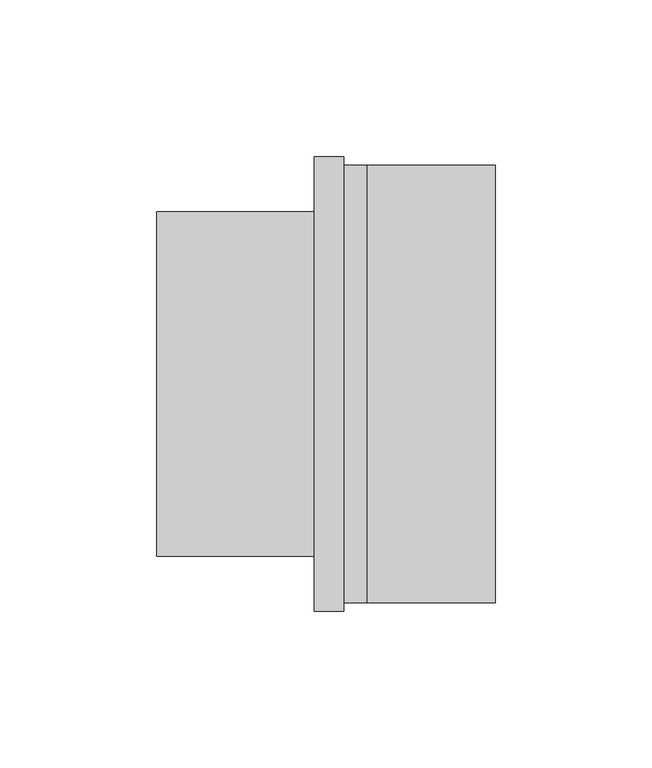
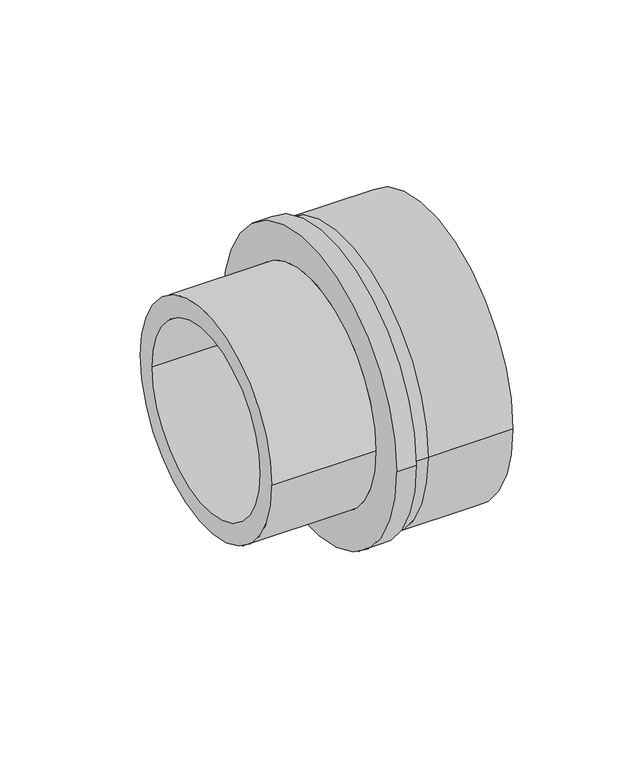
"""IFC4 building model written with IfcOpenShell, lengths in millimetres: pipe fitting geometry, Adapter with welding end : A welding RX."""

from ifc_helpers import new_model, si_unit, point, frame, origin, origin_2d, place, context, project, spatial, polyline, circle_curve, trimmed, segment, composite_curve, outline, extrude, source, transform, mapped, element, save
from ifc_brep_helpers import plane_surface, cylinder_surface, revolved_surface, advanced_brep


def pipe_fitting_dee27855(model_context):
    return source(origin(), model_context, "Body", "SolidModel", [
        advanced_brep(
        [(0.0, 69.8, 0.0), (0.0, -69.8, 0.0), (-7.3, -69.8, 0.0), (-7.3, 69.8, 0.0), (-7.3, 66.95, 0.0), (-7.3, -66.95, 0.0), (0.0, -66.95, 0.0), (0.0, 66.95, 0.0), (-67.0, 45.0, 0.0), (-67.0, -45.0, 0.0), (-7.3, -45.0, 0.0), (-7.3, 45.0, 0.0), (-16.7, 55.0, 0.0), (-16.7, -55.0, 0.0), (-67.0, -55.0, 0.0), (-67.0, 55.0, 0.0), (-7.3, 72.5, 0.0), (-7.3, -72.5, 0.0), (-16.7, -72.5, 0.0), (-16.7, 72.5, 0.0)],
        [
            (0, 1, circle_curve(frame((0.0, 0.0, 0.0), z_axis=(-1.0, 0.0, 0.0), x_axis=(0.0, -1.0, 0.0)), 69.8)),
            (1, 2),
            (2, 3, circle_curve(frame((-7.3, 0.0, 0.0), z_axis=(1.0, 0.0, 0.0), x_axis=(0.0, -1.0, 0.0)), 69.8)),
            (3, 0),
            (4, 5, circle_curve(frame((-7.3, 0.0, 0.0), z_axis=(-1.0, 0.0, 0.0), x_axis=(0.0, -1.0, 0.0)), 66.95)),
            (5, 6),
            (6, 7, circle_curve(frame((0.0, 0.0, 0.0), z_axis=(1.0, 0.0, 0.0), x_axis=(0.0, -1.0, 0.0)), 66.95)),
            (7, 4),
            (8, 9, circle_curve(frame((-67.0, 0.0, 0.0), z_axis=(-1.0, 0.0, 0.0), x_axis=(0.0, -1.0, 0.0)), 45.0)),
            (9, 10),
            (10, 11, circle_curve(frame((-7.3, 0.0, 0.0), z_axis=(1.0, 0.0, 0.0), x_axis=(0.0, -1.0, 0.0)), 45.0)),
            (11, 8),
            (12, 13, circle_curve(frame((-16.7, 0.0, 0.0), z_axis=(-1.0, 0.0, 0.0), x_axis=(0.0, -1.0, 0.0)), 55.0)),
            (13, 14),
            (14, 15, circle_curve(frame((-67.0, 0.0, 0.0), z_axis=(1.0, 0.0, 0.0), x_axis=(0.0, -1.0, 0.0)), 55.0)),
            (15, 12),
            (16, 17, circle_curve(frame((-7.3, 0.0, 0.0), z_axis=(-1.0, 0.0, 0.0), x_axis=(0.0, -1.0, 0.0)), 72.5)),
            (17, 18),
            (18, 19, circle_curve(frame((-16.7, 0.0, 0.0), z_axis=(1.0, 0.0, 0.0), x_axis=(0.0, -1.0, 0.0)), 72.5)),
            (19, 16),
            (16, 17, circle_curve(frame((-7.3, 0.0, 0.0), z_axis=(1.0, 0.0, 0.0), x_axis=(0.0, 1.0, 0.0)), 72.5)),
            (2, 3, circle_curve(frame((-7.3, 0.0, 0.0), z_axis=(-1.0, 0.0, 0.0), x_axis=(0.0, 1.0, 0.0)), 69.8)),
            (1, 0, circle_curve(frame((0.0, 0.0, 0.0), z_axis=(-1.0, 0.0, 0.0), x_axis=(0.0, 1.0, 0.0)), 69.8)),
            (6, 7, circle_curve(frame((0.0, 0.0, 0.0), z_axis=(-1.0, 0.0, 0.0), x_axis=(0.0, 1.0, 0.0)), 66.95)),
            (5, 4, circle_curve(frame((-7.3, 0.0, 0.0), z_axis=(-1.0, 0.0, 0.0), x_axis=(0.0, 1.0, 0.0)), 66.95)),
            (10, 11, circle_curve(frame((-7.3, 0.0, 0.0), z_axis=(-1.0, 0.0, 0.0), x_axis=(0.0, 1.0, 0.0)), 45.0)),
            (9, 8, circle_curve(frame((-67.0, 0.0, 0.0), z_axis=(-1.0, 0.0, 0.0), x_axis=(0.0, 1.0, 0.0)), 45.0)),
            (14, 15, circle_curve(frame((-67.0, 0.0, 0.0), z_axis=(-1.0, 0.0, 0.0), x_axis=(0.0, 1.0, 0.0)), 55.0)),
            (13, 12, circle_curve(frame((-16.7, 0.0, 0.0), z_axis=(-1.0, 0.0, 0.0), x_axis=(0.0, 1.0, 0.0)), 55.0)),
            (18, 19, circle_curve(frame((-16.7, 0.0, 0.0), z_axis=(-1.0, 0.0, 0.0), x_axis=(0.0, 1.0, 0.0)), 72.5)),
        ],
        [
            cylinder_surface(frame((0.0, 0.0, 0.0), z_axis=(1.0, 0.0, 0.0), x_axis=(0.0, -1.0, 0.0)), 69.8),
            revolved_surface(polyline([(0.0, -66.95, 0.0), (-7.3, -66.95, 0.0)]), (0.0, 0.0, 0.0), (1.0, 0.0, 0.0)),
            revolved_surface(polyline([(-7.3, -45.0, 0.0), (-67.0, -45.0, 0.0)]), (0.0, 0.0, 0.0), (1.0, 0.0, 0.0)),
            cylinder_surface(frame((0.0, 0.0, 0.0), z_axis=(1.0, 0.0, 0.0), x_axis=(0.0, -1.0, 0.0)), 55.0),
            cylinder_surface(frame((0.0, 0.0, 0.0), z_axis=(1.0, 0.0, 0.0), x_axis=(0.0, -1.0, 0.0)), 72.5),
            plane_surface(frame((-7.3, 0.0, 0.0), z_axis=(1.0, 0.0, 0.0), x_axis=(0.0, 1.0, 0.0))),
            cylinder_surface(frame((0.0, 0.0, 0.0), z_axis=(1.0, 0.0, 0.0), x_axis=(0.0, 1.0, 0.0)), 69.8),
            plane_surface(frame((0.0, 0.0, 0.0), z_axis=(1.0, 0.0, 0.0), x_axis=(0.0, 1.0, 0.0))),
            revolved_surface(polyline([(0.0, 66.95, 0.0), (-7.3, 66.95, 0.0)]), (0.0, 0.0, 0.0), (1.0, 0.0, 0.0)),
            revolved_surface(polyline([(-7.3, 45.0, 0.0), (-67.0, 45.0, 0.0)]), (0.0, 0.0, 0.0), (1.0, 0.0, 0.0)),
            plane_surface(frame((-67.0, 0.0, 0.0), z_axis=(-1.0, 0.0, 0.0), x_axis=(0.0, 1.0, 0.0))),
            cylinder_surface(frame((0.0, 0.0, 0.0), z_axis=(1.0, 0.0, 0.0), x_axis=(0.0, 1.0, 0.0)), 55.0),
            plane_surface(frame((-16.7, 0.0, 0.0), z_axis=(-1.0, 0.0, 0.0), x_axis=(0.0, 1.0, 0.0))),
            cylinder_surface(frame((0.0, 0.0, 0.0), z_axis=(1.0, 0.0, 0.0), x_axis=(0.0, 1.0, 0.0)), 72.5),
        ],
        [
            (0, [[1, 2, 3, 4]]),
            (1, [[5, 6, 7, 8]]),
            (2, [[9, 10, 11, 12]]),
            (3, [[13, 14, 15, 16]]),
            (4, [[17, 18, 19, 20]]),
            (5, [[21, -17], [22, -3]]),
            (6, [[23, -4, -22, -2]]),
            (7, [[-23, -1], [24, -7]]),
            (8, [[25, -8, -24, -6]]),
            (5, [[-25, -5], [26, -11]]),
            (9, [[27, -12, -26, -10]]),
            (10, [[28, -15], [-27, -9]]),
            (11, [[29, -16, -28, -14]]),
            (12, [[30, -19], [-29, -13]]),
            (13, [[-21, -20, -30, -18]]),
        ],
    ),
        extrude(outline(composite_curve([segment(trimmed(circle_curve(origin_2d(), 69.8), [point((-69.8, 0.0))], [point((69.8, 0.0))], False, "CARTESIAN"), True, "CONTINUOUS"), segment(trimmed(circle_curve(origin_2d(), 69.8), [point((69.8, 0.0))], [point((-69.8, 0.0))], False, "CARTESIAN"), True, "CONTINUOUS")], self_intersect=False), holes=[composite_curve([segment(trimmed(circle_curve(origin_2d(), 66.95), [point((66.95, 0.0))], [point((-66.95, 0.0))], True, "CARTESIAN"), True, "CONTINUOUS"), segment(trimmed(circle_curve(origin_2d(), 66.95), [point((-66.95, 0.0))], [point((66.95, 0.0))], True, "CARTESIAN"), True, "CONTINUOUS")], self_intersect=False)]), frame((0.0, 0.0, 0.0), z_axis=(1.0, 0.0, 0.0), x_axis=(0.0, 1.0, 0.0)), (0.0, 0.0, 1.0), 41.0),
    ])


if __name__ == "__main__":
    model = new_model("IFC4")
    model_context = context("Model", 3, world=origin())
    ifc_project = project(units=[si_unit("LENGTHUNIT", "METRE", prefix="MILLI")], contexts=[model_context])
    site = spatial("IfcSite", under=ifc_project)
    building = spatial("IfcBuilding", under=site)
    placement = place(None, origin())
    pipe_fitting_shape = pipe_fitting_dee27855(model_context)
    element("IfcPipeFitting", 1, ObjectType="Adapter with welding end : A welding RX", at=placement, inside=building, context=model_context, shape_type="MappedRepresentation", body=[
        mapped(pipe_fitting_shape, transform((0.0, 0.0, 0.0), x_axis=(1.0, 0.0, 0.0), y_axis=(0.0, 1.0, 0.0), z_axis=(0.0, 0.0, 1.0))),
    ])
    save(model, "model.ifc")
